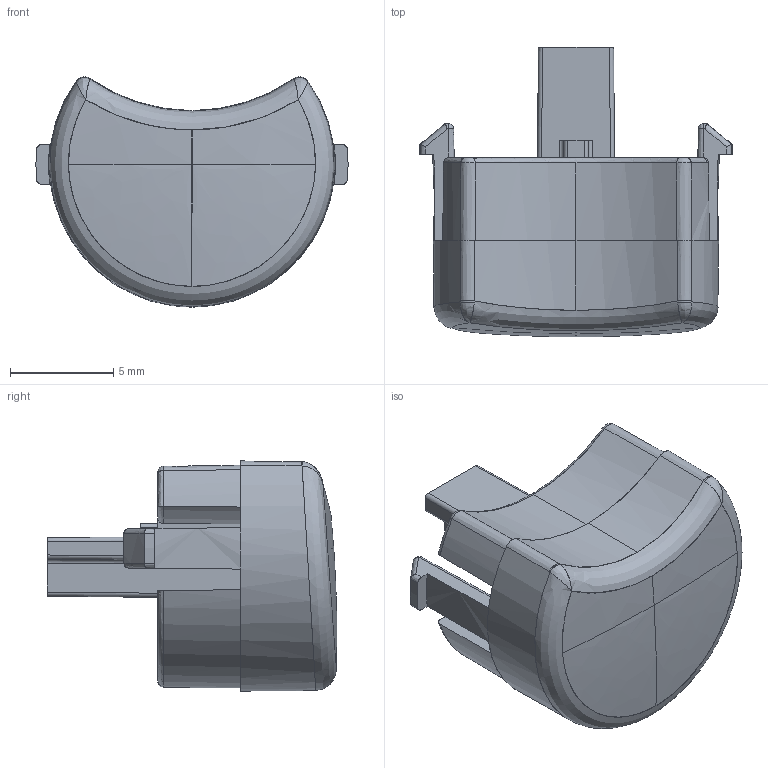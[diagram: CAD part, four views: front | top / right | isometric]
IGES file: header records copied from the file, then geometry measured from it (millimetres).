
Start section: Comment
Global section: file name: 148037195.igs; native system:  By UGS Corp.; preprocessor: XPlus GENERIC/IGES 3.0; author: Author; organization: Title; date: 20080207.150300; units: millimetre
Bounding box: 15.1 x 13.99 x 11.13 mm (x, y, z)
Surface area: 919.1 mm2 (no closed solid volume)
Topology: 0 solids, 0 shells, 148 faces, 802 edges, 786 vertices
Faces by surface type: bspline 148
